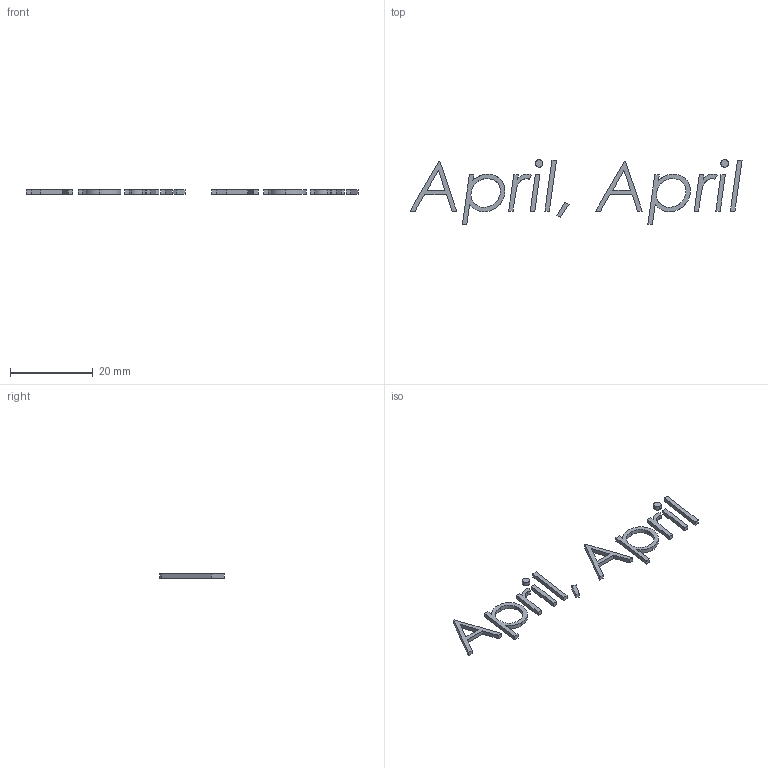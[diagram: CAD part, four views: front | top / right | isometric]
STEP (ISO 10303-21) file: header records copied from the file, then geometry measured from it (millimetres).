
FILE_DESCRIPTION (( 'STEP AP203' ), '1' );
FILE_NAME ('Hot.STEP');
FILE_SCHEMA (( 'CONFIG_CONTROL_DESIGN' ));
Length unit declared in the file: millimetre
Products named in the file (1): Hot
Bounding box: 80.39 x 15.69 x 1 mm (x, y, z)
Volume: 214.3 mm3; surface area: 844.3 mm2
Topology: 13 solids, 13 shells, 122 faces, 288 edges, 192 vertices
Faces by surface type: plane 90, bspline 32
Entity records: 5869 total; most frequent: CARTESIAN_POINT 3195, ORIENTED_EDGE 576, DIRECTION 406, EDGE_CURVE 288, VECTOR 224, LINE 224, VERTEX_POINT 192, EDGE_LOOP 130
